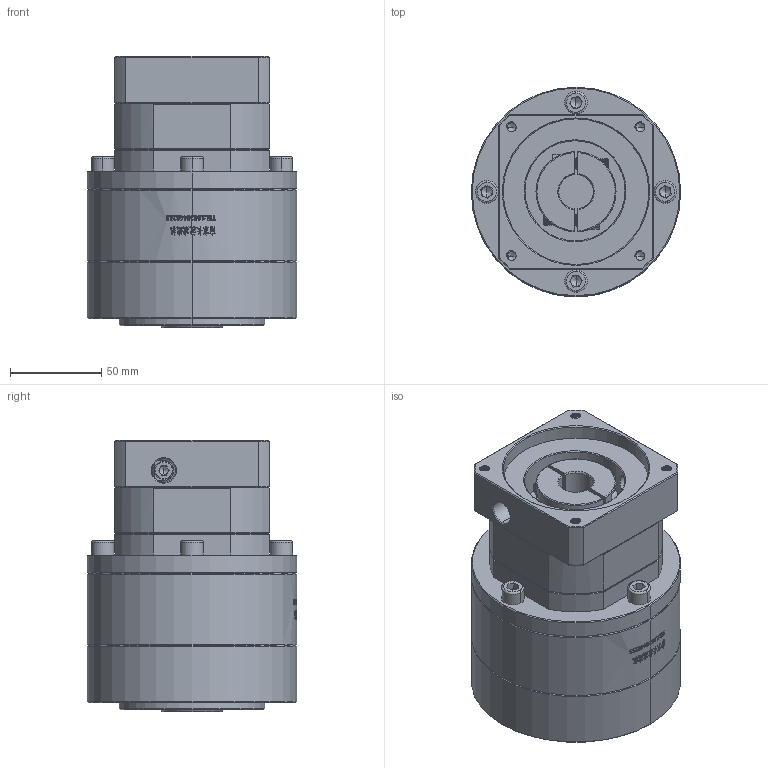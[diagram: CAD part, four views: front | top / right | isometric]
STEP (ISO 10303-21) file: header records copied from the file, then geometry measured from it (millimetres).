
FILE_DESCRIPTION (( 'STEP AP214' ), '1' );
FILE_NAME ('ZE120A-K25-L2-19-80-100-M6.step', '2023-03-13T06:53:53', ( '' ), ( '' ), 'SwSTEP 2.0', 'SolidWorks 2016', '' );
FILE_SCHEMA (( 'AUTOMOTIVE_DESIGN' ));
Length unit declared in the file: millimetre
Products named in the file (1): ZE120A-K25-L2-19-80-100-M6
Bounding box: 115 x 115 x 149 mm (x, y, z)
Volume: 1162481.6 mm3; surface area: 119974.4 mm2
Topology: 5 solids, 6 shells, 1966 faces, 5182 edges, 3307 vertices
Faces by surface type: plane 859, cylinder 467, bspline 324, cone 301, torus 15
Entity records: 111140 total; most frequent: CARTESIAN_POINT 45342, ORIENTED_EDGE 10292, DIRECTION 7726, EDGE_CURVE 5146, VERTEX_POINT 3307, LINE 2750, VECTOR 2750, AXIS2_PLACEMENT_3D 2488
